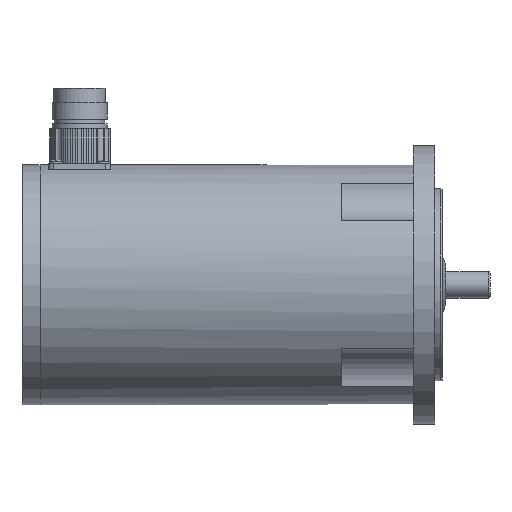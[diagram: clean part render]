
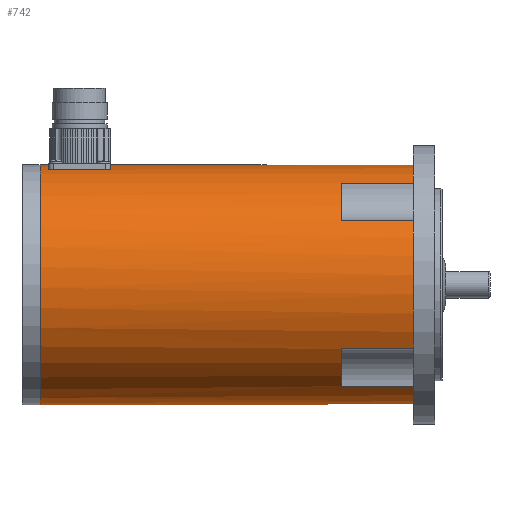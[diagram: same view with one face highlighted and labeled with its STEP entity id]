
A CAD part, left-side view. The second image highlights one B-rep face of the part: STEP entity #742.
In plain terms, the highlighted cylindrical face has radius 50 mm (diameter 100 mm), a full revolution.
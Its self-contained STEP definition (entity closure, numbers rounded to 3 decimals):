
#372=CYLINDRICAL_SURFACE('',#4102,50.);
#504=LINE('',#6088,#622);
#505=LINE('',#6092,#623);
#506=LINE('',#6093,#624);
#507=LINE('',#6095,#625);
#508=LINE('',#6099,#626);
#509=LINE('',#6100,#627);
#510=LINE('',#6104,#628);
#511=LINE('',#6105,#629);
#512=LINE('',#6109,#630);
#513=LINE('',#6110,#631);
#622=VECTOR('',#4732,1.);
#623=VECTOR('',#4735,1.);
#624=VECTOR('',#4736,1.);
#625=VECTOR('',#4737,1.);
#626=VECTOR('',#4740,1.);
#627=VECTOR('',#4741,1.);
#628=VECTOR('',#4744,1.);
#629=VECTOR('',#4745,1.);
#630=VECTOR('',#4748,1.);
#631=VECTOR('',#4749,1.);
#742=ADVANCED_FACE('',(#1274,#1275,#1276),#372,.T.);
#1274=FACE_BOUND('',#1565,.T.);
#1275=FACE_BOUND('',#1566,.T.);
#1276=FACE_BOUND('',#1567,.T.);
#1565=EDGE_LOOP('',(#2036,#2037,#2038,#2039));
#1566=EDGE_LOOP('',(#2040,#2041,#2042,#2043,#2044,#2045,#2046,#2047,#2048,
#2049,#2050,#2051,#2052,#2053,#2054,#2055));
#1567=EDGE_LOOP('',(#2056));
#2036=ORIENTED_EDGE('',*,*,#3306,.F.);
#2037=ORIENTED_EDGE('',*,*,#3307,.F.);
#2038=ORIENTED_EDGE('',*,*,#3308,.F.);
#2039=ORIENTED_EDGE('',*,*,#3309,.F.);
#2040=ORIENTED_EDGE('',*,*,#3310,.F.);
#2041=ORIENTED_EDGE('',*,*,#3304,.T.);
#2042=ORIENTED_EDGE('',*,*,#3311,.F.);
#2043=ORIENTED_EDGE('',*,*,#3312,.F.);
#2044=ORIENTED_EDGE('',*,*,#3313,.F.);
#2045=ORIENTED_EDGE('',*,*,#3302,.T.);
#2046=ORIENTED_EDGE('',*,*,#3314,.F.);
#2047=ORIENTED_EDGE('',*,*,#3315,.F.);
#2048=ORIENTED_EDGE('',*,*,#3316,.F.);
#2049=ORIENTED_EDGE('',*,*,#3300,.T.);
#2050=ORIENTED_EDGE('',*,*,#3317,.F.);
#2051=ORIENTED_EDGE('',*,*,#3318,.F.);
#2052=ORIENTED_EDGE('',*,*,#3319,.F.);
#2053=ORIENTED_EDGE('',*,*,#3298,.T.);
#2054=ORIENTED_EDGE('',*,*,#3320,.F.);
#2055=ORIENTED_EDGE('',*,*,#3321,.F.);
#2056=ORIENTED_EDGE('',*,*,#3296,.T.);
#2936=VERTEX_POINT('',#6064);
#2937=VERTEX_POINT('',#6067);
#2938=VERTEX_POINT('',#6068);
#2939=VERTEX_POINT('',#6070);
#2940=VERTEX_POINT('',#6072);
#2941=VERTEX_POINT('',#6074);
#2942=VERTEX_POINT('',#6076);
#2943=VERTEX_POINT('',#6078);
#2944=VERTEX_POINT('',#6080);
#2946=VERTEX_POINT('',#6086);
#2947=VERTEX_POINT('',#6087);
#2948=VERTEX_POINT('',#6089);
#2949=VERTEX_POINT('',#6091);
#2950=VERTEX_POINT('',#6094);
#2951=VERTEX_POINT('',#6096);
#2952=VERTEX_POINT('',#6098);
#2953=VERTEX_POINT('',#6101);
#2954=VERTEX_POINT('',#6103);
#2955=VERTEX_POINT('',#6106);
#2956=VERTEX_POINT('',#6108);
#2957=VERTEX_POINT('',#6111);
#3296=EDGE_CURVE('',#2936,#2936,#3751,.T.);
#3298=EDGE_CURVE('',#2939,#2938,#3753,.T.);
#3300=EDGE_CURVE('',#2941,#2940,#3755,.T.);
#3302=EDGE_CURVE('',#2943,#2942,#3757,.T.);
#3304=EDGE_CURVE('',#2937,#2944,#3759,.T.);
#3306=EDGE_CURVE('',#2946,#2947,#3761,.T.);
#3307=EDGE_CURVE('',#2948,#2946,#504,.T.);
#3308=EDGE_CURVE('',#2949,#2948,#3762,.T.);
#3309=EDGE_CURVE('',#2947,#2949,#505,.T.);
#3310=EDGE_CURVE('',#2937,#2950,#506,.T.);
#3311=EDGE_CURVE('',#2951,#2944,#507,.T.);
#3312=EDGE_CURVE('',#2952,#2951,#3763,.T.);
#3313=EDGE_CURVE('',#2943,#2952,#508,.T.);
#3314=EDGE_CURVE('',#2953,#2942,#509,.T.);
#3315=EDGE_CURVE('',#2954,#2953,#3764,.T.);
#3316=EDGE_CURVE('',#2941,#2954,#510,.T.);
#3317=EDGE_CURVE('',#2955,#2940,#511,.T.);
#3318=EDGE_CURVE('',#2956,#2955,#3765,.T.);
#3319=EDGE_CURVE('',#2939,#2956,#512,.T.);
#3320=EDGE_CURVE('',#2957,#2938,#513,.T.);
#3321=EDGE_CURVE('',#2950,#2957,#3766,.T.);
#3751=CIRCLE('',#4084,50.);
#3753=CIRCLE('',#4087,50.);
#3755=CIRCLE('',#4089,50.);
#3757=CIRCLE('',#4091,50.);
#3759=CIRCLE('',#4093,50.);
#3761=CIRCLE('',#4096,50.);
#3762=CIRCLE('',#4097,50.);
#3763=CIRCLE('',#4098,50.);
#3764=CIRCLE('',#4099,50.);
#3765=CIRCLE('',#4100,50.);
#3766=CIRCLE('',#4101,50.);
#4084=AXIS2_PLACEMENT_3D('',#6063,#4706,#4707);
#4087=AXIS2_PLACEMENT_3D('',#6069,#4712,#4713);
#4089=AXIS2_PLACEMENT_3D('',#6073,#4716,#4717);
#4091=AXIS2_PLACEMENT_3D('',#6077,#4720,#4721);
#4093=AXIS2_PLACEMENT_3D('',#6081,#4724,#4725);
#4096=AXIS2_PLACEMENT_3D('',#6085,#4730,#4731);
#4097=AXIS2_PLACEMENT_3D('',#6090,#4733,#4734);
#4098=AXIS2_PLACEMENT_3D('',#6097,#4738,#4739);
#4099=AXIS2_PLACEMENT_3D('',#6102,#4742,#4743);
#4100=AXIS2_PLACEMENT_3D('',#6107,#4746,#4747);
#4101=AXIS2_PLACEMENT_3D('',#6112,#4750,#4751);
#4102=AXIS2_PLACEMENT_3D('',#6113,#4752,#4753);
#4706=DIRECTION('',(0.,-1.,0.));
#4707=DIRECTION('',(0.,0.,-1.));
#4712=DIRECTION('',(0.,1.,0.));
#4713=DIRECTION('',(0.,0.,1.));
#4716=DIRECTION('',(0.,1.,0.));
#4717=DIRECTION('',(0.,0.,1.));
#4720=DIRECTION('',(0.,1.,0.));
#4721=DIRECTION('',(0.,0.,1.));
#4724=DIRECTION('',(0.,1.,0.));
#4725=DIRECTION('',(0.,0.,1.));
#4730=DIRECTION('',(0.,1.,0.));
#4731=DIRECTION('',(0.,0.,-1.));
#4732=DIRECTION('',(0.,-1.,0.));
#4733=DIRECTION('',(0.,-1.,0.));
#4734=DIRECTION('',(0.,0.,1.));
#4735=DIRECTION('',(0.,1.,0.));
#4736=DIRECTION('',(0.,1.,0.));
#4737=DIRECTION('',(0.,-1.,0.));
#4738=DIRECTION('',(0.,-1.,0.));
#4739=DIRECTION('',(0.,0.,1.));
#4740=DIRECTION('',(0.,1.,0.));
#4741=DIRECTION('',(0.,-1.,0.));
#4742=DIRECTION('',(0.,-1.,0.));
#4743=DIRECTION('',(0.,0.,1.));
#4744=DIRECTION('',(0.,1.,0.));
#4745=DIRECTION('',(0.,-1.,0.));
#4746=DIRECTION('',(0.,-1.,0.));
#4747=DIRECTION('',(0.,0.,1.));
#4748=DIRECTION('',(0.,1.,0.));
#4749=DIRECTION('',(0.,-1.,0.));
#4750=DIRECTION('',(0.,-1.,0.));
#4751=DIRECTION('',(0.,0.,1.));
#4752=DIRECTION('',(0.,1.,0.));
#4753=DIRECTION('',(0.,0.,1.));
#6063=CARTESIAN_POINT('',(0.,155.5,0.));
#6064=CARTESIAN_POINT('',(0.,155.5,-50.));
#6067=CARTESIAN_POINT('',(-26.729,0.,42.256));
#6068=CARTESIAN_POINT('',(-42.256,0.,26.729));
#6069=CARTESIAN_POINT('',(0.,0.,0.));
#6070=CARTESIAN_POINT('',(-42.256,0.,-26.729));
#6072=CARTESIAN_POINT('',(-26.729,0.,-42.256));
#6073=CARTESIAN_POINT('',(0.,0.,0.));
#6074=CARTESIAN_POINT('',(26.729,0.,-42.256));
#6076=CARTESIAN_POINT('',(42.256,0.,-26.729));
#6077=CARTESIAN_POINT('',(0.,0.,0.));
#6078=CARTESIAN_POINT('',(42.256,0.,26.729));
#6080=CARTESIAN_POINT('',(26.729,0.,42.256));
#6081=CARTESIAN_POINT('',(0.,0.,0.));
#6085=CARTESIAN_POINT('',(0.,126.,0.));
#6086=CARTESIAN_POINT('',(-14.,126.,48.));
#6087=CARTESIAN_POINT('',(14.,126.,48.));
#6088=CARTESIAN_POINT('',(-14.,0.,48.));
#6089=CARTESIAN_POINT('',(-14.,152.,48.));
#6090=CARTESIAN_POINT('',(0.,152.,0.));
#6091=CARTESIAN_POINT('',(14.,152.,48.));
#6092=CARTESIAN_POINT('',(14.,0.,48.));
#6093=CARTESIAN_POINT('',(-26.729,15.,42.256));
#6094=CARTESIAN_POINT('',(-26.729,30.,42.256));
#6095=CARTESIAN_POINT('',(26.729,15.,42.256));
#6096=CARTESIAN_POINT('',(26.729,30.,42.256));
#6097=CARTESIAN_POINT('',(0.,30.,0.));
#6098=CARTESIAN_POINT('',(42.256,30.,26.729));
#6099=CARTESIAN_POINT('',(42.256,15.,26.729));
#6100=CARTESIAN_POINT('',(42.256,15.,-26.729));
#6101=CARTESIAN_POINT('',(42.256,30.,-26.729));
#6102=CARTESIAN_POINT('',(0.,30.,0.));
#6103=CARTESIAN_POINT('',(26.729,30.,-42.256));
#6104=CARTESIAN_POINT('',(26.729,15.,-42.256));
#6105=CARTESIAN_POINT('',(-26.729,15.,-42.256));
#6106=CARTESIAN_POINT('',(-26.729,30.,-42.256));
#6107=CARTESIAN_POINT('',(0.,30.,0.));
#6108=CARTESIAN_POINT('',(-42.256,30.,-26.729));
#6109=CARTESIAN_POINT('',(-42.256,15.,-26.729));
#6110=CARTESIAN_POINT('',(-42.256,15.,26.729));
#6111=CARTESIAN_POINT('',(-42.256,30.,26.729));
#6112=CARTESIAN_POINT('',(0.,30.,0.));
#6113=CARTESIAN_POINT('',(0.,0.,0.));
